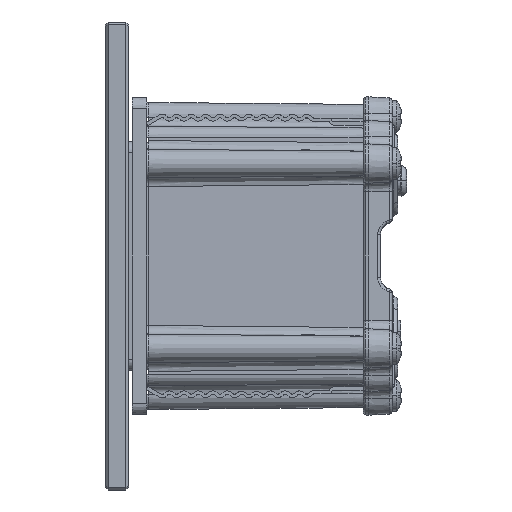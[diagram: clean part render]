
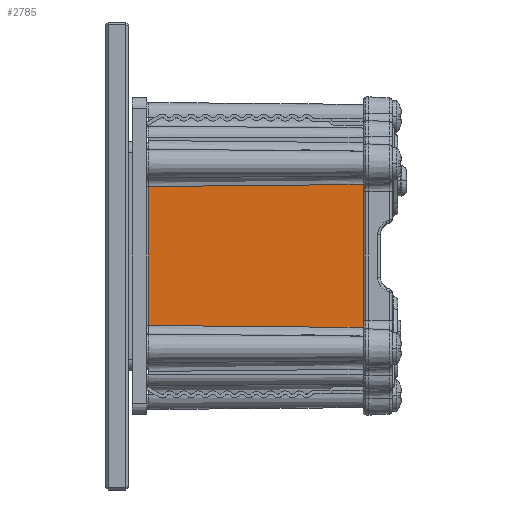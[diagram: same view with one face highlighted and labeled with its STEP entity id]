
A CAD part, left-side view. The second image highlights one B-rep face of the part: STEP entity #2785.
In plain terms, the highlighted planar face has unit normal (-1, -0.009, 0).
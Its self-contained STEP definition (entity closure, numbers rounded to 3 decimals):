
#738=CARTESIAN_POINT('',(-75.976,10.203,12.026));
#739=CARTESIAN_POINT('',(-75.945,6.748,12.058));
#740=CARTESIAN_POINT('',(-75.886,-0.053,
12.119));
#741=CARTESIAN_POINT('',(-75.796,-10.349,12.216));
#742=CARTESIAN_POINT('',(-75.717,-19.469,12.303));
#743=CARTESIAN_POINT('',(-75.669,-24.935,12.356));
#744=CARTESIAN_POINT('',(-75.647,-27.5,12.382));
#746=DIRECTION('',(0.,0.,-1.));
#747=VECTOR('',#746,24.764);
#748=CARTESIAN_POINT('',(-75.647,-27.5,12.382));
#749=LINE('',#748,#747);
#750=CARTESIAN_POINT('',(-75.647,-27.5,
-12.382));
#751=CARTESIAN_POINT('',(-75.678,-23.845,
-12.346));
#752=CARTESIAN_POINT('',(-75.745,-16.182,
-12.271));
#753=CARTESIAN_POINT('',(-75.853,-3.857,
-12.154));
#754=CARTESIAN_POINT('',(-75.933,5.373,-12.07));
#755=CARTESIAN_POINT('',(-75.976,10.203,-12.026));
#757=DIRECTION('',(0.,0.,1.));
#758=VECTOR('',#757,24.053);
#759=CARTESIAN_POINT('',(-75.976,10.203,-12.026));
#760=LINE('',#759,#758);
#1232=CARTESIAN_POINT('',(-75.976,10.203,12.026));
#1279=CARTESIAN_POINT('',(-75.647,-27.5,12.382));
#1352=CARTESIAN_POINT('',(-75.976,10.203,
-12.026));
#1354=CARTESIAN_POINT('',(-75.647,-27.5,
-12.382));
#2290=VERTEX_POINT('',#1279);
#2293=VERTEX_POINT('',#1354);
#2339=VERTEX_POINT('',#1352);
#2349=VERTEX_POINT('',#1232);
#2770=CARTESIAN_POINT('',(-76.,13.,-23.62));
#2771=DIRECTION('',(-1.,-0.009,0.));
#2772=DIRECTION('',(0.,0.,1.));
#2773=AXIS2_PLACEMENT_3D('',#2770,#2771,#2772);
#2774=PLANE('',#2773);
#2776=ORIENTED_EDGE('',*,*,#2775,.T.);
#2778=ORIENTED_EDGE('',*,*,#2777,.T.);
#2780=ORIENTED_EDGE('',*,*,#2779,.T.);
#2782=ORIENTED_EDGE('',*,*,#2781,.T.);
#2783=EDGE_LOOP('',(#2776,#2778,#2780,#2782));
#2784=FACE_OUTER_BOUND('',#2783,.F.);
#2785=ADVANCED_FACE('',(#2784),#2774,.T.);
#745=B_SPLINE_CURVE_WITH_KNOTS('',3,(#738,#739,#740,#741,#742,#743,#744),
.UNSPECIFIED.,.F.,.F.,(4,1,1,1,4),(0.,0.25,0.5,0.75,1.),
.UNSPECIFIED.);
#756=B_SPLINE_CURVE_WITH_KNOTS('',3,(#750,#751,#752,#753,#754,#755),
.UNSPECIFIED.,.F.,.F.,(4,1,1,4),(0.,0.333,0.667,1.),
.UNSPECIFIED.);
#2775=EDGE_CURVE('',#2349,#2290,#745,.T.);
#2777=EDGE_CURVE('',#2290,#2293,#749,.T.);
#2779=EDGE_CURVE('',#2293,#2339,#756,.T.);
#2781=EDGE_CURVE('',#2339,#2349,#760,.T.);
